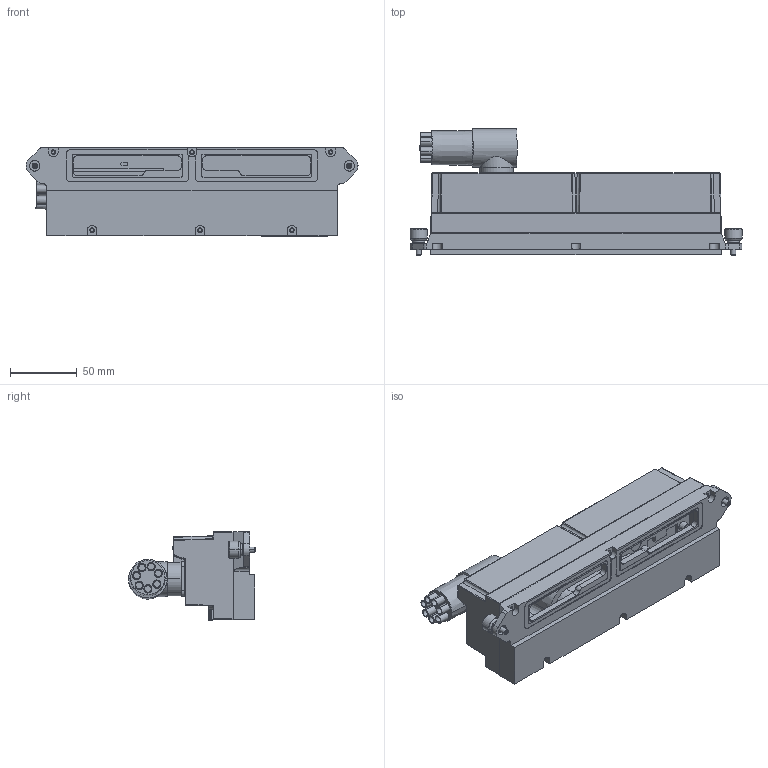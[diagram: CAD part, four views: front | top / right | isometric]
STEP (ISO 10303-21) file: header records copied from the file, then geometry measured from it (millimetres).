
FILE_DESCRIPTION((''),'2;1');
FILE_NAME('W0001356436_ASM','2024-08-14T10:43:45',('RRajan1'),('Rockwell Automation'),'CREO PARAMETRIC BY PTC INC, 2020281','CREO PARAMETRIC BY PTC INC, 2020281','');
FILE_SCHEMA(('CONFIG_CONTROL_DESIGN'));
Length unit declared in the file: millimetre
Products named in the file (12): W0001356539; 10004203877; W0001356540_ASM; 10005060435; 10005060436; 10005060437; 10005060438_ASM; 10005060491; A806268-SIMP; A806268-SIMP_ASM; 10005060511; W0001356436_ASM
Assembly tree (25 placements, depth 3):
  W0001356436_ASM
    W0001356540_ASM
      W0001356539
      10004203877  x2
    10005060438_ASM
      10005060435
      10005060436  x10
      10005060437  x4
    10005060491
    A806268-SIMP_ASM
      A806268-SIMP
    10005060511  x2
Bounding box: 249.06 x 95.18 x 66.7 mm (x, y, z)
Volume: 265923.8 mm3; surface area: 139829 mm2
Topology: 27 solids, 27 shells, 1808 faces, 4171 edges, 2570 vertices
Faces by surface type: cylinder 656, plane 596, cone 332, torus 84, sphere 75, bspline 57, extrusion 8
Entity records: 40139 total; most frequent: CARTESIAN_POINT 10308, DIRECTION 6480, ORIENTED_EDGE 5970, EDGE_CURVE 2985, AXIS2_PLACEMENT_3D 2461, VERTEX_POINT 1851, VECTOR 1558, LINE 1550
